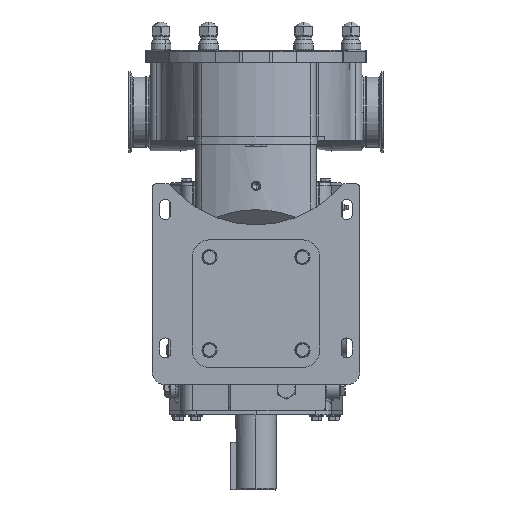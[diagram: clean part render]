
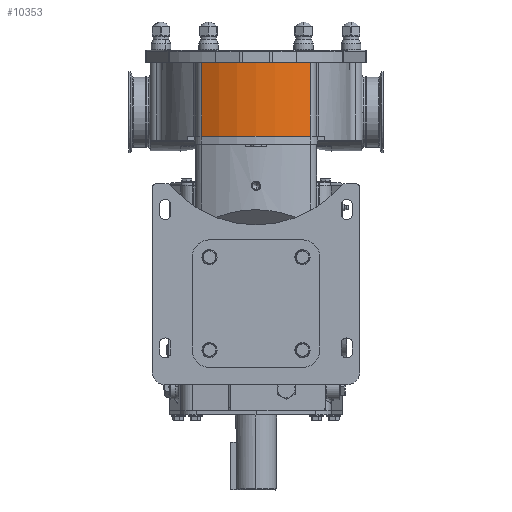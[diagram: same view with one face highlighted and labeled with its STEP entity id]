
A CAD part, front view. The second image highlights one B-rep face of the part: STEP entity #10353.
In plain terms, the highlighted cylindrical face has radius 158.496 mm (diameter 316.992 mm), a partial arc.
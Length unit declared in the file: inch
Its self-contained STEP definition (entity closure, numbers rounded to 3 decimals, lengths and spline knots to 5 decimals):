
#1525 = VERTEX_POINT ( 'NONE', #30149 ) ;
#5869 = FACE_OUTER_BOUND ( 'NONE', #57259, .T. ) ;
#6399 = CARTESIAN_POINT ( 'NONE',  ( 0., -7., -1.314 ) ) ;
#7137 = ORIENTED_EDGE ( 'NONE', *, *, #40348, .F. ) ;
#10353 = ADVANCED_FACE ( 'NONE', ( #5869 ), #20147, .T. ) ;
#13487 = DIRECTION ( 'NONE',  ( 0., -1., 0. ) ) ;
#14905 = VERTEX_POINT ( 'NONE', #75874 ) ;
#17755 = AXIS2_PLACEMENT_3D ( 'NONE', #70039, #28034, #77095 ) ;
#19029 = LINE ( 'NONE', #62156, #54120 ) ;
#19731 = CARTESIAN_POINT ( 'NONE',  ( 0., -7., 3.576 ) ) ;
#20147 = CYLINDRICAL_SURFACE ( 'NONE', #21902, 6.24 ) ;
#21902 = AXIS2_PLACEMENT_3D ( 'NONE', #19731, #47621, #68766 ) ;
#28034 = DIRECTION ( 'NONE',  ( 0., 0., 1. ) ) ;
#30149 = CARTESIAN_POINT ( 'NONE',  ( 3.12568, -12.40071, -1.314 ) ) ;
#35302 = ORIENTED_EDGE ( 'NONE', *, *, #58558, .F. ) ;
#37318 = EDGE_CURVE ( 'NONE', #1525, #42071, #90516, .T. ) ;
#38111 = ORIENTED_EDGE ( 'NONE', *, *, #77729, .T. ) ;
#39719 = CARTESIAN_POINT ( 'NONE',  ( 3.12568, -12.40071, -1.549 ) ) ;
#40325 = CARTESIAN_POINT ( 'NONE',  ( 3.12568, -12.40071, 2.959 ) ) ;
#40348 = EDGE_CURVE ( 'NONE', #14905, #73786, #19029, .T. ) ;
#42071 = VERTEX_POINT ( 'NONE', #40325 ) ;
#47621 = DIRECTION ( 'NONE',  ( 0., 0., -1. ) ) ;
#48981 = CIRCLE ( 'NONE', #17755, 6.24 ) ;
#54120 = VECTOR ( 'NONE', #69136, 39.37008 ) ;
#55529 = DIRECTION ( 'NONE',  ( 0., 0., 1. ) ) ;
#57259 = EDGE_LOOP ( 'NONE', ( #7137, #38111, #71762, #35302 ) ) ;
#57619 = VECTOR ( 'NONE', #81699, 39.37008 ) ;
#58558 = EDGE_CURVE ( 'NONE', #73786, #42071, #48981, .T. ) ;
#60717 = CARTESIAN_POINT ( 'NONE',  ( -3.12568, -12.40071, 2.959 ) ) ;
#62156 = CARTESIAN_POINT ( 'NONE',  ( -3.12568, -12.40071, -1.549 ) ) ;
#64684 = AXIS2_PLACEMENT_3D ( 'NONE', #6399, #55529, #13487 ) ;
#68766 = DIRECTION ( 'NONE',  ( 0., 1., 0. ) ) ;
#69136 = DIRECTION ( 'NONE',  ( 0., 0., 1. ) ) ;
#70039 = CARTESIAN_POINT ( 'NONE',  ( 0., -7., 2.959 ) ) ;
#71762 = ORIENTED_EDGE ( 'NONE', *, *, #37318, .T. ) ;
#73786 = VERTEX_POINT ( 'NONE', #60717 ) ;
#75874 = CARTESIAN_POINT ( 'NONE',  ( -3.12568, -12.40071, -1.314 ) ) ;
#77095 = DIRECTION ( 'NONE',  ( 0., -1., 0. ) ) ;
#77729 = EDGE_CURVE ( 'NONE', #14905, #1525, #84384, .T. ) ;
#81699 = DIRECTION ( 'NONE',  ( 0., 0., 1. ) ) ;
#84384 = CIRCLE ( 'NONE', #64684, 6.24 ) ;
#90516 = LINE ( 'NONE', #39719, #57619 ) ;
